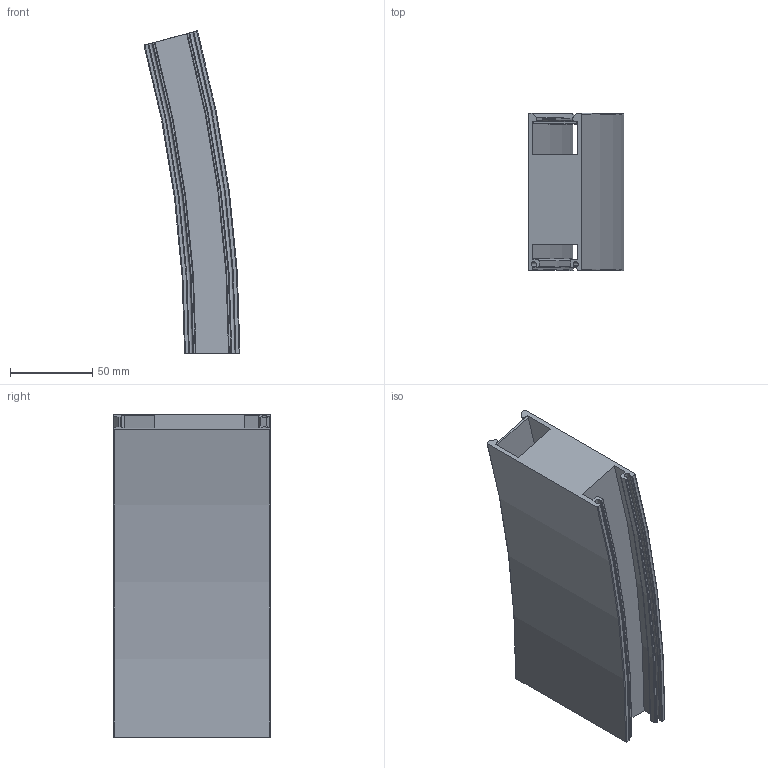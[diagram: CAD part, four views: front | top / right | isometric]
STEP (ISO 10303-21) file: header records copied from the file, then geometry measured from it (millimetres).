
FILE_DESCRIPTION(/* description */ (''),/* implementation_level */ '2;1');
FILE_NAME(/* name */ 'Evelo S R750 Blank Assembly.stp',/* time_stamp */ '2024-09-20T17:06:33+10:00',/* author */ ('Mlight Projects'),/* organization */ (''),/* preprocessor_version */ 'ST-DEVELOPER v20',/* originating_system */ 'Autodesk Inventor 2024',/* authorisation */ '');
FILE_SCHEMA (('AUTOMOTIVE_DESIGN { 1 0 10303 214 3 1 1 }'));
Length unit declared in the file: millimetre
Products named in the file (3): Evelo S R750 Optics Assembly; Body R200; Blanks R300
Assembly tree (2 placements, depth 2):
  Evelo S R750 Optics Assembly
    Body R200
    Blanks R300
Bounding box: 58.21 x 95.1 x 195.62 mm (x, y, z)
Volume: 409549.2 mm3; surface area: 87620.9 mm2
Topology: 2 solids, 2 shells, 66 faces, 186 edges, 124 vertices
Faces by surface type: torus 28, plane 18, cylinder 12, cone 8
Entity records: 2315 total; most frequent: DIRECTION 446, CARTESIAN_POINT 381, ORIENTED_EDGE 372, AXIS2_PLACEMENT_3D 189, EDGE_CURVE 186, VERTEX_POINT 124, CIRCLE 118, LINE 68
